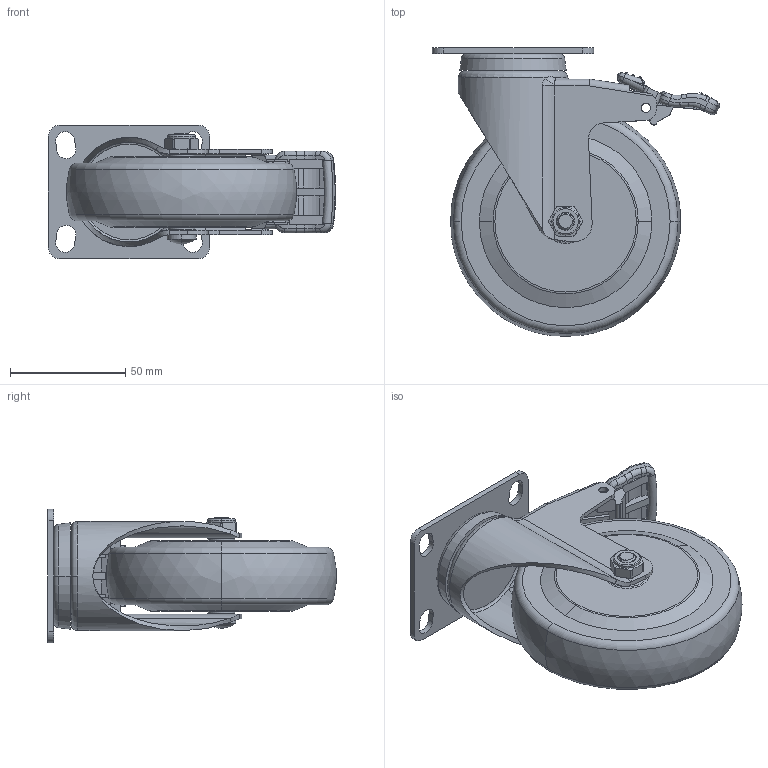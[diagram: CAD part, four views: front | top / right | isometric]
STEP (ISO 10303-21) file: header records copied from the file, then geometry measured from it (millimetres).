
FILE_DESCRIPTION((''),'2;1');
FILE_NAME('361125-3625-64_ASM','2020-01-03T',('L'),(''),'PRO/ENGINEER BY PARAMETRIC TECHNOLOGY CORPORATION, 2010280','PRO/ENGINEER BY PARAMETRIC TECHNOLOGY CORPORATION, 2010280','');
FILE_SCHEMA(('CONFIG_CONTROL_DESIGN'));
Length unit declared in the file: millimetre
Products named in the file (6): 36124H; 364-964; 350-33A; 300-34; 3601-64; 361125-3625-64_ASM
Assembly tree (5 placements, depth 2):
  361125-3625-64_ASM
    36124H
    364-964
    350-33A
    300-34
    3601-64
Bounding box: 124.71 x 125.16 x 58 mm (x, y, z)
Volume: 259796.1 mm3; surface area: 58512.8 mm2
Topology: 5 solids, 5 shells, 451 faces, 1150 edges, 720 vertices
Faces by surface type: cylinder 156, plane 151, bspline 66, torus 36, cone 28, sphere 14
Entity records: 20758 total; most frequent: CARTESIAN_POINT 10206, ORIENTED_EDGE 2296, DIRECTION 2011, EDGE_CURVE 1148, AXIS2_PLACEMENT_3D 757, VERTEX_POINT 720, VECTOR 497, LINE 497
